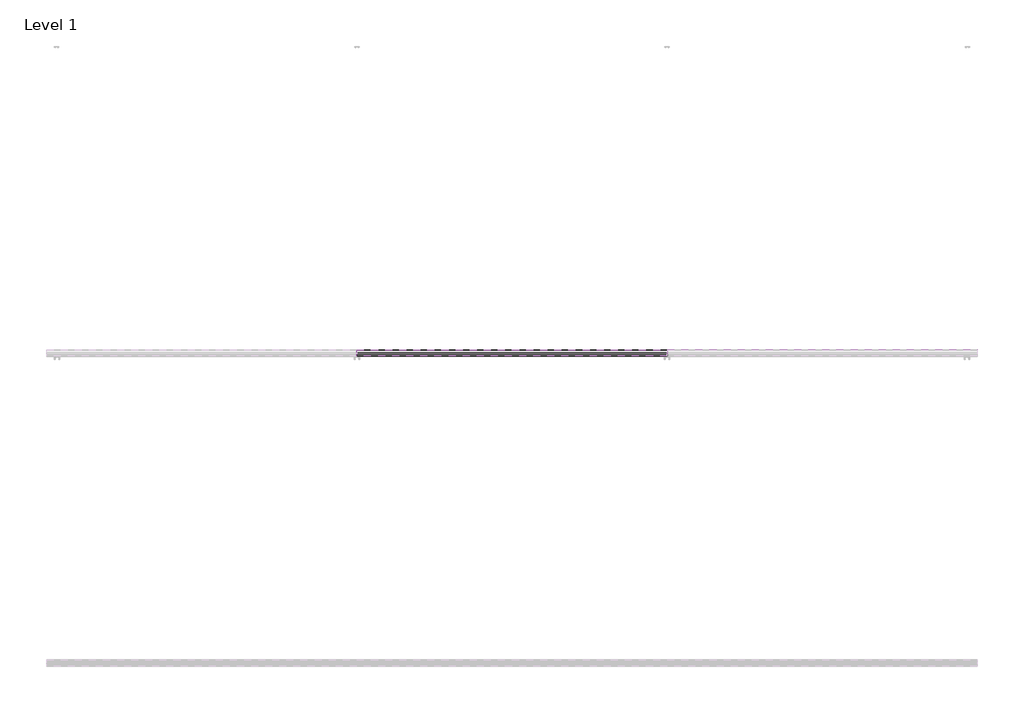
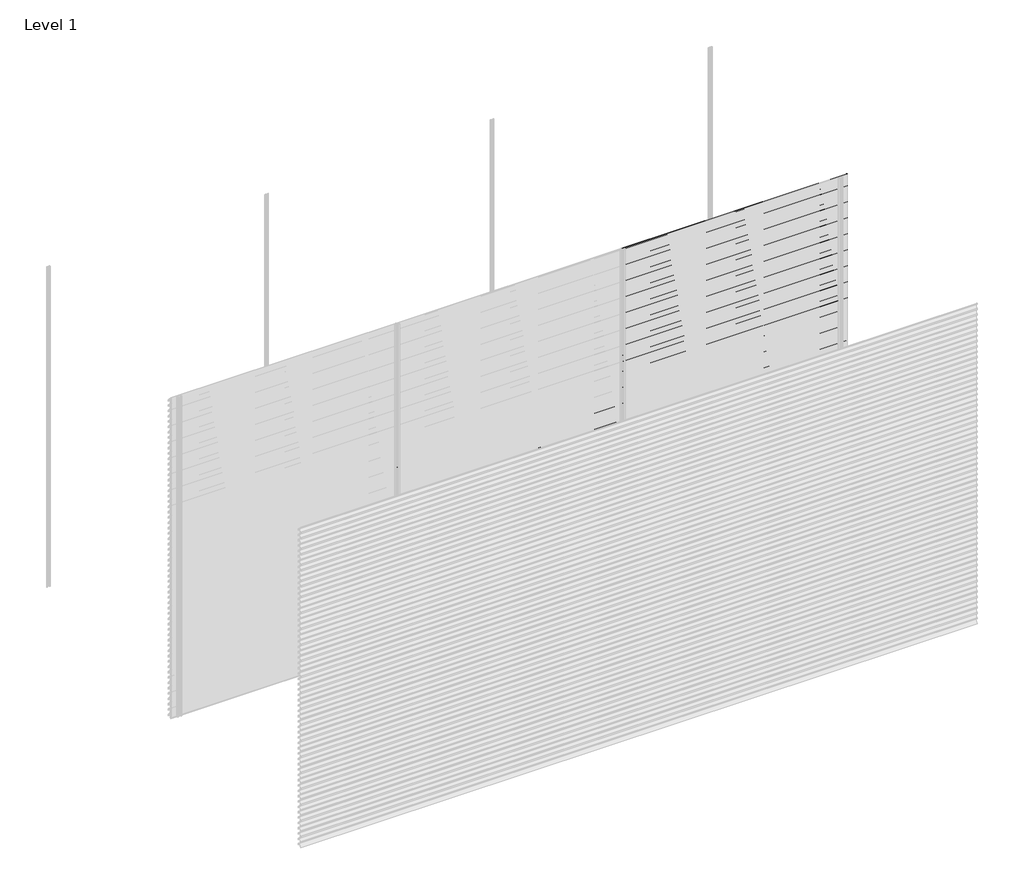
# One storey, part 34 of 38: 66 proxies.
"""IFC4 building model written with IfcOpenShell, lengths in millimetres."""

from ifc_helpers import new_model, si_unit, frame, origin, place, context, project, spatial, polyline, outline, extrude, element, save

model = new_model("IFC4")

# Units and contexts
model_context = context("Model", 3, world=origin())
ifc_project = project(units=[si_unit("LENGTHUNIT", "METRE", prefix="MILLI")], contexts=[model_context])

# Site, building, storey
site = spatial("IfcSite", under=ifc_project)
building = spatial("IfcBuilding", under=site)
storey = spatial("IfcBuildingStorey", under=building, Name="Level 1", Elevation=0.0)

# Proxies
placement = place(None, origin())
element("IfcBuildingElementProxy", 1, Name="Wall Sweeps", at=placement, inside=storey, context=model_context, shape_type="SweptSolid", body=[
    extrude(outline(polyline([(-5996.75, 1650.0), (-5996.75, 1639.19656), (-5974.6057113, 1626.4115489), (-5957.0, 1609.0472005), (-5957.0, 1594.0472005), (-5958.3, 1595.0268207), (-5958.3, 1608.5034593), (-5969.4914725, 1619.541504), (-5994.2797376, 1590.0), (-5995.9767671, 1590.0), (-5970.4200307, 1620.4573323), (-5975.3999793, 1625.3690091), (-5998.0, 1638.4171371), (-5998.0, 1650.0), (-5996.75, 1650.0)])), frame((2000.0, 0.0, 0.0), z_axis=(1.0, 0.0, 0.0), x_axis=(0.0, 1.0, 0.0)), (0.0, 0.0, 1.0), 2000.0),
])
element("IfcBuildingElementProxy", 2, Name="Wall Sweeps", at=placement, inside=storey, context=model_context, shape_type="SweptSolid", body=[
    extrude(outline(polyline([(-5996.75, 1600.0), (-5996.75, 1589.19656), (-5974.6057113, 1576.4115489), (-5957.0, 1559.0472005), (-5957.0, 1544.0472005), (-5958.3, 1545.0268207), (-5958.3, 1558.5034593), (-5969.4914725, 1569.541504), (-5994.2797376, 1540.0), (-5995.9767671, 1540.0), (-5970.4200307, 1570.4573323), (-5975.3999793, 1575.3690091), (-5998.0, 1588.4171371), (-5998.0, 1600.0), (-5996.75, 1600.0)])), frame((2000.0, 0.0, 0.0), z_axis=(1.0, 0.0, 0.0), x_axis=(0.0, 1.0, 0.0)), (0.0, 0.0, 1.0), 2000.0),
])
element("IfcBuildingElementProxy", 3, Name="Wall Sweeps", at=placement, inside=storey, context=model_context, shape_type="SweptSolid", body=[
    extrude(outline(polyline([(-5996.75, 1550.0), (-5996.75, 1539.19656), (-5974.6057113, 1526.4115489), (-5957.0, 1509.0472005), (-5957.0, 1494.0472005), (-5958.3, 1495.0268207), (-5958.3, 1508.5034593), (-5969.4914725, 1519.541504), (-5994.2797376, 1490.0), (-5995.9767671, 1490.0), (-5970.4200307, 1520.4573323), (-5975.3999793, 1525.3690091), (-5998.0, 1538.4171371), (-5998.0, 1550.0), (-5996.75, 1550.0)])), frame((2000.0, 0.0, 0.0), z_axis=(1.0, 0.0, 0.0), x_axis=(0.0, 1.0, 0.0)), (0.0, 0.0, 1.0), 2000.0),
])
element("IfcBuildingElementProxy", 4, Name="Wall Sweeps", at=placement, inside=storey, context=model_context, shape_type="SweptSolid", body=[
    extrude(outline(polyline([(-5996.75, 1500.0), (-5996.75, 1489.19656), (-5974.6057113, 1476.4115489), (-5957.0, 1459.0472005), (-5957.0, 1444.0472005), (-5958.3, 1445.0268207), (-5958.3, 1458.5034593), (-5969.4914725, 1469.541504), (-5994.2797376, 1440.0), (-5995.9767671, 1440.0), (-5970.4200307, 1470.4573323), (-5975.3999793, 1475.3690091), (-5998.0, 1488.4171371), (-5998.0, 1500.0), (-5996.75, 1500.0)])), frame((2000.0, 0.0, 0.0), z_axis=(1.0, 0.0, 0.0), x_axis=(0.0, 1.0, 0.0)), (0.0, 0.0, 1.0), 2000.0),
])
element("IfcBuildingElementProxy", 5, Name="Wall Sweeps", at=placement, inside=storey, context=model_context, shape_type="SweptSolid", body=[
    extrude(outline(polyline([(-5996.75, 1450.0), (-5996.75, 1439.19656), (-5974.6057113, 1426.4115489), (-5957.0, 1409.0472005), (-5957.0, 1394.0472005), (-5958.3, 1395.0268207), (-5958.3, 1408.5034593), (-5969.4914725, 1419.541504), (-5994.2797376, 1390.0), (-5995.9767671, 1390.0), (-5970.4200307, 1420.4573323), (-5975.3999793, 1425.3690091), (-5998.0, 1438.4171371), (-5998.0, 1450.0), (-5996.75, 1450.0)])), frame((2000.0, 0.0, 0.0), z_axis=(1.0, 0.0, 0.0), x_axis=(0.0, 1.0, 0.0)), (0.0, 0.0, 1.0), 2000.0),
])
element("IfcBuildingElementProxy", 6, Name="Wall Sweeps", at=placement, inside=storey, context=model_context, shape_type="SweptSolid", body=[
    extrude(outline(polyline([(-5996.75, 1400.0), (-5996.75, 1389.19656), (-5974.6057113, 1376.4115489), (-5957.0, 1359.0472005), (-5957.0, 1344.0472005), (-5958.3, 1345.0268207), (-5958.3, 1358.5034593), (-5969.4914725, 1369.541504), (-5994.2797376, 1340.0), (-5995.9767671, 1340.0), (-5970.4200307, 1370.4573323), (-5975.3999793, 1375.3690091), (-5998.0, 1388.4171371), (-5998.0, 1400.0), (-5996.75, 1400.0)])), frame((2000.0, 0.0, 0.0), z_axis=(1.0, 0.0, 0.0), x_axis=(0.0, 1.0, 0.0)), (0.0, 0.0, 1.0), 2000.0),
])
element("IfcBuildingElementProxy", 7, Name="Wall Sweeps", at=placement, inside=storey, context=model_context, shape_type="SweptSolid", body=[
    extrude(outline(polyline([(-5996.75, 1350.0), (-5996.75, 1339.19656), (-5974.6057113, 1326.4115489), (-5957.0, 1309.0472005), (-5957.0, 1294.0472005), (-5958.3, 1295.0268207), (-5958.3, 1308.5034593), (-5969.4914725, 1319.541504), (-5994.2797376, 1290.0), (-5995.9767671, 1290.0), (-5970.4200307, 1320.4573323), (-5975.3999793, 1325.3690091), (-5998.0, 1338.4171371), (-5998.0, 1350.0), (-5996.75, 1350.0)])), frame((2000.0, 0.0, 0.0), z_axis=(1.0, 0.0, 0.0), x_axis=(0.0, 1.0, 0.0)), (0.0, 0.0, 1.0), 2000.0),
])
element("IfcBuildingElementProxy", 8, Name="Wall Sweeps", at=placement, inside=storey, context=model_context, shape_type="SweptSolid", body=[
    extrude(outline(polyline([(-5996.75, 1300.0), (-5996.75, 1289.19656), (-5974.6057113, 1276.4115489), (-5957.0, 1259.0472005), (-5957.0, 1244.0472005), (-5958.3, 1245.0268207), (-5958.3, 1258.5034593), (-5969.4914725, 1269.541504), (-5994.2797376, 1240.0), (-5995.9767671, 1240.0), (-5970.4200307, 1270.4573323), (-5975.3999793, 1275.3690091), (-5998.0, 1288.4171371), (-5998.0, 1300.0), (-5996.75, 1300.0)])), frame((2000.0, 0.0, 0.0), z_axis=(1.0, 0.0, 0.0), x_axis=(0.0, 1.0, 0.0)), (0.0, 0.0, 1.0), 2000.0),
])
element("IfcBuildingElementProxy", 9, Name="Wall Sweeps", at=placement, inside=storey, context=model_context, shape_type="SweptSolid", body=[
    extrude(outline(polyline([(-5996.75, 1250.0), (-5996.75, 1239.19656), (-5974.6057113, 1226.4115489), (-5957.0, 1209.0472005), (-5957.0, 1194.0472005), (-5958.3, 1195.0268207), (-5958.3, 1208.5034593), (-5969.4914725, 1219.541504), (-5994.2797376, 1190.0), (-5995.9767671, 1190.0), (-5970.4200307, 1220.4573323), (-5975.3999793, 1225.3690091), (-5998.0, 1238.4171371), (-5998.0, 1250.0), (-5996.75, 1250.0)])), frame((2000.0, 0.0, 0.0), z_axis=(1.0, 0.0, 0.0), x_axis=(0.0, 1.0, 0.0)), (0.0, 0.0, 1.0), 2000.0),
])
element("IfcBuildingElementProxy", 10, Name="Wall Sweeps", at=placement, inside=storey, context=model_context, shape_type="SweptSolid", body=[
    extrude(outline(polyline([(-5996.75, 1200.0), (-5996.75, 1189.19656), (-5974.6057113, 1176.4115489), (-5957.0, 1159.0472005), (-5957.0, 1144.0472005), (-5958.3, 1145.0268207), (-5958.3, 1158.5034593), (-5969.4914725, 1169.541504), (-5994.2797376, 1140.0), (-5995.9767671, 1140.0), (-5970.4200307, 1170.4573323), (-5975.3999793, 1175.3690091), (-5998.0, 1188.4171371), (-5998.0, 1200.0), (-5996.75, 1200.0)])), frame((2000.0, 0.0, 0.0), z_axis=(1.0, 0.0, 0.0), x_axis=(0.0, 1.0, 0.0)), (0.0, 0.0, 1.0), 2000.0),
])
element("IfcBuildingElementProxy", 11, Name="Wall Sweeps", at=placement, inside=storey, context=model_context, shape_type="SweptSolid", body=[
    extrude(outline(polyline([(-5996.75, 1150.0), (-5996.75, 1139.19656), (-5974.6057113, 1126.4115489), (-5957.0, 1109.0472005), (-5957.0, 1094.0472005), (-5958.3, 1095.0268207), (-5958.3, 1108.5034593), (-5969.4914725, 1119.541504), (-5994.2797376, 1090.0), (-5995.9767671, 1090.0), (-5970.4200307, 1120.4573323), (-5975.3999793, 1125.3690091), (-5998.0, 1138.4171371), (-5998.0, 1150.0), (-5996.75, 1150.0)])), frame((2000.0, 0.0, 0.0), z_axis=(1.0, 0.0, 0.0), x_axis=(0.0, 1.0, 0.0)), (0.0, 0.0, 1.0), 2000.0),
])
element("IfcBuildingElementProxy", 12, Name="Wall Sweeps", at=placement, inside=storey, context=model_context, shape_type="SweptSolid", body=[
    extrude(outline(polyline([(-5996.75, 1100.0), (-5996.75, 1089.19656), (-5974.6057113, 1076.4115489), (-5957.0, 1059.0472005), (-5957.0, 1044.0472005), (-5958.3, 1045.0268207), (-5958.3, 1058.5034593), (-5969.4914725, 1069.541504), (-5994.2797376, 1040.0), (-5995.9767671, 1040.0), (-5970.4200307, 1070.4573323), (-5975.3999793, 1075.3690091), (-5998.0, 1088.4171371), (-5998.0, 1100.0), (-5996.75, 1100.0)])), frame((2000.0, 0.0, 0.0), z_axis=(1.0, 0.0, 0.0), x_axis=(0.0, 1.0, 0.0)), (0.0, 0.0, 1.0), 2000.0),
])
element("IfcBuildingElementProxy", 13, Name="Wall Sweeps", at=placement, inside=storey, context=model_context, shape_type="SweptSolid", body=[
    extrude(outline(polyline([(-5996.75, 1050.0), (-5996.75, 1039.19656), (-5974.6057113, 1026.4115489), (-5957.0, 1009.0472005), (-5957.0, 994.0472005), (-5958.3, 995.0268207), (-5958.3, 1008.5034593), (-5969.4914725, 1019.541504), (-5994.2797376, 990.0), (-5995.9767671, 990.0), (-5970.4200307, 1020.4573323), (-5975.3999793, 1025.3690091), (-5998.0, 1038.4171371), (-5998.0, 1050.0), (-5996.75, 1050.0)])), frame((2000.0, 0.0, 0.0), z_axis=(1.0, 0.0, 0.0), x_axis=(0.0, 1.0, 0.0)), (0.0, 0.0, 1.0), 2000.0),
])
element("IfcBuildingElementProxy", 14, Name="Wall Sweeps", at=placement, inside=storey, context=model_context, shape_type="SweptSolid", body=[
    extrude(outline(polyline([(-5996.75, 1000.0), (-5996.75, 989.19656), (-5974.6057113, 976.4115489), (-5957.0, 959.0472005), (-5957.0, 944.0472005), (-5958.3, 945.0268207), (-5958.3, 958.5034593), (-5969.4914725, 969.541504), (-5994.2797376, 940.0), (-5995.9767671, 940.0), (-5970.4200307, 970.4573323), (-5975.3999793, 975.3690091), (-5998.0, 988.4171371), (-5998.0, 1000.0), (-5996.75, 1000.0)])), frame((2000.0, 0.0, 0.0), z_axis=(1.0, 0.0, 0.0), x_axis=(0.0, 1.0, 0.0)), (0.0, 0.0, 1.0), 2000.0),
])
element("IfcBuildingElementProxy", 15, Name="Wall Sweeps", at=placement, inside=storey, context=model_context, shape_type="SweptSolid", body=[
    extrude(outline(polyline([(-5996.75, 950.0), (-5996.75, 939.19656), (-5974.6057113, 926.4115489), (-5957.0, 909.0472005), (-5957.0, 894.0472005), (-5958.3, 895.0268207), (-5958.3, 908.5034593), (-5969.4914725, 919.541504), (-5994.2797376, 890.0), (-5995.9767671, 890.0), (-5970.4200307, 920.4573323), (-5975.3999793, 925.3690091), (-5998.0, 938.4171371), (-5998.0, 950.0), (-5996.75, 950.0)])), frame((2000.0, 0.0, 0.0), z_axis=(1.0, 0.0, 0.0), x_axis=(0.0, 1.0, 0.0)), (0.0, 0.0, 1.0), 2000.0),
])
element("IfcBuildingElementProxy", 16, Name="Wall Sweeps", at=placement, inside=storey, context=model_context, shape_type="SweptSolid", body=[
    extrude(outline(polyline([(-5996.75, 900.0), (-5996.75, 889.19656), (-5974.6057113, 876.4115489), (-5957.0, 859.0472005), (-5957.0, 844.0472005), (-5958.3, 845.0268207), (-5958.3, 858.5034593), (-5969.4914725, 869.541504), (-5994.2797376, 840.0), (-5995.9767671, 840.0), (-5970.4200307, 870.4573323), (-5975.3999793, 875.3690091), (-5998.0, 888.4171371), (-5998.0, 900.0), (-5996.75, 900.0)])), frame((2000.0, 0.0, 0.0), z_axis=(1.0, 0.0, 0.0), x_axis=(0.0, 1.0, 0.0)), (0.0, 0.0, 1.0), 2000.0),
])
element("IfcBuildingElementProxy", 17, Name="Wall Sweeps", at=placement, inside=storey, context=model_context, shape_type="SweptSolid", body=[
    extrude(outline(polyline([(-5996.75, 850.0), (-5996.75, 839.19656), (-5974.6057113, 826.4115489), (-5957.0, 809.0472005), (-5957.0, 794.0472005), (-5958.3, 795.0268207), (-5958.3, 808.5034593), (-5969.4914725, 819.541504), (-5994.2797376, 790.0), (-5995.9767671, 790.0), (-5970.4200307, 820.4573323), (-5975.3999793, 825.3690091), (-5998.0, 838.4171371), (-5998.0, 850.0), (-5996.75, 850.0)])), frame((2000.0, 0.0, 0.0), z_axis=(1.0, 0.0, 0.0), x_axis=(0.0, 1.0, 0.0)), (0.0, 0.0, 1.0), 2000.0),
])
element("IfcBuildingElementProxy", 18, Name="Wall Sweeps", at=placement, inside=storey, context=model_context, shape_type="SweptSolid", body=[
    extrude(outline(polyline([(-5996.75, 800.0), (-5996.75, 789.19656), (-5974.6057113, 776.4115489), (-5957.0, 759.0472005), (-5957.0, 744.0472005), (-5958.3, 745.0268207), (-5958.3, 758.5034593), (-5969.4914725, 769.541504), (-5994.2797376, 740.0), (-5995.9767671, 740.0), (-5970.4200307, 770.4573323), (-5975.3999793, 775.3690091), (-5998.0, 788.4171371), (-5998.0, 800.0), (-5996.75, 800.0)])), frame((2000.0, 0.0, 0.0), z_axis=(1.0, 0.0, 0.0), x_axis=(0.0, 1.0, 0.0)), (0.0, 0.0, 1.0), 2000.0),
])
element("IfcBuildingElementProxy", 19, Name="Wall Sweeps", at=placement, inside=storey, context=model_context, shape_type="SweptSolid", body=[
    extrude(outline(polyline([(-5996.75, 750.0), (-5996.75, 739.19656), (-5974.6057113, 726.4115489), (-5957.0, 709.0472005), (-5957.0, 694.0472005), (-5958.3, 695.0268207), (-5958.3, 708.5034593), (-5969.4914725, 719.541504), (-5994.2797376, 690.0), (-5995.9767671, 690.0), (-5970.4200307, 720.4573323), (-5975.3999793, 725.3690091), (-5998.0, 738.4171371), (-5998.0, 750.0), (-5996.75, 750.0)])), frame((2000.0, 0.0, 0.0), z_axis=(1.0, 0.0, 0.0), x_axis=(0.0, 1.0, 0.0)), (0.0, 0.0, 1.0), 2000.0),
])
element("IfcBuildingElementProxy", 20, Name="Wall Sweeps", at=placement, inside=storey, context=model_context, shape_type="SweptSolid", body=[
    extrude(outline(polyline([(-5996.75, 700.0), (-5996.75, 689.19656), (-5974.6057113, 676.4115489), (-5957.0, 659.0472005), (-5957.0, 644.0472005), (-5958.3, 645.0268207), (-5958.3, 658.5034593), (-5969.4914725, 669.541504), (-5994.2797376, 640.0), (-5995.9767671, 640.0), (-5970.4200307, 670.4573323), (-5975.3999793, 675.3690091), (-5998.0, 688.4171371), (-5998.0, 700.0), (-5996.75, 700.0)])), frame((2000.0, 0.0, 0.0), z_axis=(1.0, 0.0, 0.0), x_axis=(0.0, 1.0, 0.0)), (0.0, 0.0, 1.0), 2000.0),
])
element("IfcBuildingElementProxy", 21, Name="Wall Sweeps", at=placement, inside=storey, context=model_context, shape_type="SweptSolid", body=[
    extrude(outline(polyline([(-5996.75, 650.0), (-5996.75, 639.19656), (-5974.6057113, 626.4115489), (-5957.0, 609.0472005), (-5957.0, 594.0472005), (-5958.3, 595.0268207), (-5958.3, 608.5034593), (-5969.4914725, 619.541504), (-5994.2797376, 590.0), (-5995.9767671, 590.0), (-5970.4200307, 620.4573323), (-5975.3999793, 625.3690091), (-5998.0, 638.4171371), (-5998.0, 650.0), (-5996.75, 650.0)])), frame((2000.0, 0.0, 0.0), z_axis=(1.0, 0.0, 0.0), x_axis=(0.0, 1.0, 0.0)), (0.0, 0.0, 1.0), 2000.0),
])
element("IfcBuildingElementProxy", 22, Name="Wall Sweeps", at=placement, inside=storey, context=model_context, shape_type="SweptSolid", body=[
    extrude(outline(polyline([(-5996.75, 600.0), (-5996.75, 589.19656), (-5974.6057113, 576.4115489), (-5957.0, 559.0472005), (-5957.0, 544.0472005), (-5958.3, 545.0268207), (-5958.3, 558.5034593), (-5969.4914725, 569.541504), (-5994.2797376, 540.0), (-5995.9767671, 540.0), (-5970.4200307, 570.4573323), (-5975.3999793, 575.3690091), (-5998.0, 588.4171371), (-5998.0, 600.0), (-5996.75, 600.0)])), frame((2000.0, 0.0, 0.0), z_axis=(1.0, 0.0, 0.0), x_axis=(0.0, 1.0, 0.0)), (0.0, 0.0, 1.0), 2000.0),
])
element("IfcBuildingElementProxy", 23, Name="Wall Sweeps", at=placement, inside=storey, context=model_context, shape_type="SweptSolid", body=[
    extrude(outline(polyline([(-5996.75, 550.0), (-5996.75, 539.19656), (-5974.6057113, 526.4115489), (-5957.0, 509.0472005), (-5957.0, 494.0472005), (-5958.3, 495.0268207), (-5958.3, 508.5034593), (-5969.4914725, 519.541504), (-5994.2797376, 490.0), (-5995.9767671, 490.0), (-5970.4200307, 520.4573323), (-5975.3999793, 525.3690091), (-5998.0, 538.4171371), (-5998.0, 550.0), (-5996.75, 550.0)])), frame((2000.0, 0.0, 0.0), z_axis=(1.0, 0.0, 0.0), x_axis=(0.0, 1.0, 0.0)), (0.0, 0.0, 1.0), 2000.0),
])
element("IfcBuildingElementProxy", 24, Name="Wall Sweeps", at=placement, inside=storey, context=model_context, shape_type="SweptSolid", body=[
    extrude(outline(polyline([(-5996.75, 500.0), (-5996.75, 489.19656), (-5974.6057113, 476.4115489), (-5957.0, 459.0472005), (-5957.0, 444.0472005), (-5958.3, 445.0268207), (-5958.3, 458.5034593), (-5969.4914725, 469.541504), (-5994.2797376, 440.0), (-5995.9767671, 440.0), (-5970.4200307, 470.4573323), (-5975.3999793, 475.3690091), (-5998.0, 488.4171371), (-5998.0, 500.0), (-5996.75, 500.0)])), frame((2000.0, 0.0, 0.0), z_axis=(1.0, 0.0, 0.0), x_axis=(0.0, 1.0, 0.0)), (0.0, 0.0, 1.0), 2000.0),
])
element("IfcBuildingElementProxy", 25, Name="Wall Sweeps", at=placement, inside=storey, context=model_context, shape_type="SweptSolid", body=[
    extrude(outline(polyline([(-5996.75, 450.0), (-5996.75, 439.19656), (-5974.6057113, 426.4115489), (-5957.0, 409.0472005), (-5957.0, 394.0472005), (-5958.3, 395.0268207), (-5958.3, 408.5034593), (-5969.4914725, 419.541504), (-5994.2797376, 390.0), (-5995.9767671, 390.0), (-5970.4200307, 420.4573323), (-5975.3999793, 425.3690091), (-5998.0, 438.4171371), (-5998.0, 450.0), (-5996.75, 450.0)])), frame((2000.0, 0.0, 0.0), z_axis=(1.0, 0.0, 0.0), x_axis=(0.0, 1.0, 0.0)), (0.0, 0.0, 1.0), 2000.0),
])
element("IfcBuildingElementProxy", 26, Name="Wall Sweeps", at=placement, inside=storey, context=model_context, shape_type="SweptSolid", body=[
    extrude(outline(polyline([(-5996.75, 400.0), (-5996.75, 389.19656), (-5974.6057113, 376.4115489), (-5957.0, 359.0472005), (-5957.0, 344.0472005), (-5958.3, 345.0268207), (-5958.3, 358.5034593), (-5969.4914725, 369.541504), (-5994.2797376, 340.0), (-5995.9767671, 340.0), (-5970.4200307, 370.4573323), (-5975.3999793, 375.3690091), (-5998.0, 388.4171371), (-5998.0, 400.0), (-5996.75, 400.0)])), frame((2000.0, 0.0, 0.0), z_axis=(1.0, 0.0, 0.0), x_axis=(0.0, 1.0, 0.0)), (0.0, 0.0, 1.0), 2000.0),
])
element("IfcBuildingElementProxy", 27, Name="Wall Sweeps", at=placement, inside=storey, context=model_context, shape_type="SweptSolid", body=[
    extrude(outline(polyline([(-5996.75, 350.0), (-5996.75, 339.19656), (-5974.6057113, 326.4115489), (-5957.0, 309.0472005), (-5957.0, 294.0472005), (-5958.3, 295.0268207), (-5958.3, 308.5034593), (-5969.4914725, 319.541504), (-5994.2797376, 290.0), (-5995.9767671, 290.0), (-5970.4200307, 320.4573323), (-5975.3999793, 325.3690091), (-5998.0, 338.4171371), (-5998.0, 350.0), (-5996.75, 350.0)])), frame((2000.0, 0.0, 0.0), z_axis=(1.0, 0.0, 0.0), x_axis=(0.0, 1.0, 0.0)), (0.0, 0.0, 1.0), 2000.0),
])
element("IfcBuildingElementProxy", 28, Name="Wall Sweeps", at=placement, inside=storey, context=model_context, shape_type="SweptSolid", body=[
    extrude(outline(polyline([(-5996.75, 300.0), (-5996.75, 289.19656), (-5974.6057113, 276.4115489), (-5957.0, 259.0472005), (-5957.0, 244.0472005), (-5958.3, 245.0268207), (-5958.3, 258.5034593), (-5969.4914725, 269.541504), (-5994.2797376, 240.0), (-5995.9767671, 240.0), (-5970.4200307, 270.4573323), (-5975.3999793, 275.3690091), (-5998.0, 288.4171371), (-5998.0, 300.0), (-5996.75, 300.0)])), frame((2000.0, 0.0, 0.0), z_axis=(1.0, 0.0, 0.0), x_axis=(0.0, 1.0, 0.0)), (0.0, 0.0, 1.0), 2000.0),
])
element("IfcBuildingElementProxy", 29, Name="Wall Sweeps", at=placement, inside=storey, context=model_context, shape_type="SweptSolid", body=[
    extrude(outline(polyline([(-5996.75, 250.0), (-5996.75, 239.19656), (-5974.6057113, 226.4115489), (-5957.0, 209.0472005), (-5957.0, 194.0472005), (-5958.3, 195.0268207), (-5958.3, 208.5034593), (-5969.4914725, 219.541504), (-5994.2797376, 190.0), (-5995.9767671, 190.0), (-5970.4200307, 220.4573323), (-5975.3999793, 225.3690091), (-5998.0, 238.4171371), (-5998.0, 250.0), (-5996.75, 250.0)])), frame((2000.0, 0.0, 0.0), z_axis=(1.0, 0.0, 0.0), x_axis=(0.0, 1.0, 0.0)), (0.0, 0.0, 1.0), 2000.0),
])
element("IfcBuildingElementProxy", 30, Name="Wall Sweeps", at=placement, inside=storey, context=model_context, shape_type="SweptSolid", body=[
    extrude(outline(polyline([(-5996.75, 200.0), (-5996.75, 189.19656), (-5974.6057113, 176.4115489), (-5957.0, 159.0472005), (-5957.0, 144.0472005), (-5958.3, 145.0268207), (-5958.3, 158.5034593), (-5969.4914725, 169.541504), (-5994.2797376, 140.0), (-5995.9767671, 140.0), (-5970.4200307, 170.4573323), (-5975.3999793, 175.3690091), (-5998.0, 188.4171371), (-5998.0, 200.0), (-5996.75, 200.0)])), frame((2000.0, 0.0, 0.0), z_axis=(1.0, 0.0, 0.0), x_axis=(0.0, 1.0, 0.0)), (0.0, 0.0, 1.0), 2000.0),
])
element("IfcBuildingElementProxy", 31, Name="Wall Sweeps", at=placement, inside=storey, context=model_context, shape_type="SweptSolid", body=[
    extrude(outline(polyline([(-5996.75, 150.0), (-5996.75, 139.19656), (-5974.6057113, 126.4115489), (-5957.0, 109.0472005), (-5957.0, 94.0472005), (-5958.3, 95.0268207), (-5958.3, 108.5034593), (-5969.4914725, 119.541504), (-5994.2797376, 90.0), (-5995.9767671, 90.0), (-5970.4200307, 120.4573323), (-5975.3999793, 125.3690091), (-5998.0, 138.4171371), (-5998.0, 150.0), (-5996.75, 150.0)])), frame((2000.0, 0.0, 0.0), z_axis=(1.0, 0.0, 0.0), x_axis=(0.0, 1.0, 0.0)), (0.0, 0.0, 1.0), 2000.0),
])
element("IfcBuildingElementProxy", 32, Name="Wall Sweeps", at=placement, inside=storey, context=model_context, shape_type="SweptSolid", body=[
    extrude(outline(polyline([(-5996.75, 100.0), (-5996.75, 89.19656), (-5974.6057113, 76.4115489), (-5957.0, 59.0472005), (-5957.0, 44.0472005), (-5958.3, 45.0268207), (-5958.3, 58.5034593), (-5969.4914725, 69.541504), (-5994.2797376, 40.0), (-5995.9767671, 40.0), (-5970.4200307, 70.4573323), (-5975.3999793, 75.3690091), (-5998.0, 88.4171371), (-5998.0, 100.0), (-5996.75, 100.0)])), frame((2000.0, 0.0, 0.0), z_axis=(1.0, 0.0, 0.0), x_axis=(0.0, 1.0, 0.0)), (0.0, 0.0, 1.0), 2000.0),
])
element("IfcBuildingElementProxy", 33, Name="Wall Sweeps", at=placement, inside=storey, context=model_context, shape_type="SweptSolid", body=[
    extrude(outline(polyline([(-5996.75, 50.0), (-5996.75, 39.19656), (-5974.6057113, 26.4115489), (-5957.0, 9.0472005), (-5957.0, -5.9527995), (-5958.3, -4.9731793), (-5958.3, 8.5034593), (-5969.4914725, 19.541504), (-5994.2797376, -10.0), (-5995.9767671, -10.0), (-5970.4200307, 20.4573323), (-5975.3999793, 25.3690091), (-5998.0, 38.4171371), (-5998.0, 50.0), (-5996.75, 50.0)])), frame((2000.0, 0.0, 0.0), z_axis=(1.0, 0.0, 0.0), x_axis=(0.0, 1.0, 0.0)), (0.0, 0.0, 1.0), 2000.0),
])
element("IfcBuildingElementProxy", 34, Name="Wall Sweeps", at=placement, inside=storey, context=model_context, shape_type="SweptSolid", body=[
    extrude(outline(polyline([(-5996.75, 3000.0), (-5996.75, 2989.19656), (-5974.6057113, 2976.4115489), (-5957.0, 2959.0472005), (-5957.0, 2944.0472005), (-5958.3, 2945.0268207), (-5958.3, 2958.5034593), (-5969.4914725, 2969.541504), (-5994.2797376, 2940.0), (-5995.9767671, 2940.0), (-5970.4200307, 2970.4573323), (-5975.3999793, 2975.3690091), (-5998.0, 2988.4171371), (-5998.0, 3000.0), (-5996.75, 3000.0)])), frame((4000.0, 0.0, 0.0), z_axis=(1.0, 0.0, 0.0), x_axis=(0.0, 1.0, 0.0)), (0.0, 0.0, 1.0), 2000.0),
])
element("IfcBuildingElementProxy", 35, Name="Wall Sweeps", at=placement, inside=storey, context=model_context, shape_type="SweptSolid", body=[
    extrude(outline(polyline([(-5996.75, 2950.0), (-5996.75, 2939.19656), (-5974.6057113, 2926.4115489), (-5957.0, 2909.0472005), (-5957.0, 2894.0472005), (-5958.3, 2895.0268207), (-5958.3, 2908.5034593), (-5969.4914725, 2919.541504), (-5994.2797376, 2890.0), (-5995.9767671, 2890.0), (-5970.4200307, 2920.4573323), (-5975.3999793, 2925.3690091), (-5998.0, 2938.4171371), (-5998.0, 2950.0), (-5996.75, 2950.0)])), frame((4000.0, 0.0, 0.0), z_axis=(1.0, 0.0, 0.0), x_axis=(0.0, 1.0, 0.0)), (0.0, 0.0, 1.0), 2000.0),
])
element("IfcBuildingElementProxy", 36, Name="Wall Sweeps", at=placement, inside=storey, context=model_context, shape_type="SweptSolid", body=[
    extrude(outline(polyline([(-5996.75, 2900.0), (-5996.75, 2889.19656), (-5974.6057113, 2876.4115489), (-5957.0, 2859.0472005), (-5957.0, 2844.0472005), (-5958.3, 2845.0268207), (-5958.3, 2858.5034593), (-5969.4914725, 2869.541504), (-5994.2797376, 2840.0), (-5995.9767671, 2840.0), (-5970.4200307, 2870.4573323), (-5975.3999793, 2875.3690091), (-5998.0, 2888.4171371), (-5998.0, 2900.0), (-5996.75, 2900.0)])), frame((4000.0, 0.0, 0.0), z_axis=(1.0, 0.0, 0.0), x_axis=(0.0, 1.0, 0.0)), (0.0, 0.0, 1.0), 2000.0),
])
element("IfcBuildingElementProxy", 37, Name="Wall Sweeps", at=placement, inside=storey, context=model_context, shape_type="SweptSolid", body=[
    extrude(outline(polyline([(-5996.75, 2850.0), (-5996.75, 2839.19656), (-5974.6057113, 2826.4115489), (-5957.0, 2809.0472005), (-5957.0, 2794.0472005), (-5958.3, 2795.0268207), (-5958.3, 2808.5034593), (-5969.4914725, 2819.541504), (-5994.2797376, 2790.0), (-5995.9767671, 2790.0), (-5970.4200307, 2820.4573323), (-5975.3999793, 2825.3690091), (-5998.0, 2838.4171371), (-5998.0, 2850.0), (-5996.75, 2850.0)])), frame((4000.0, 0.0, 0.0), z_axis=(1.0, 0.0, 0.0), x_axis=(0.0, 1.0, 0.0)), (0.0, 0.0, 1.0), 2000.0),
])
element("IfcBuildingElementProxy", 38, Name="Wall Sweeps", at=placement, inside=storey, context=model_context, shape_type="SweptSolid", body=[
    extrude(outline(polyline([(-5996.75, 2800.0), (-5996.75, 2789.19656), (-5974.6057113, 2776.4115489), (-5957.0, 2759.0472005), (-5957.0, 2744.0472005), (-5958.3, 2745.0268207), (-5958.3, 2758.5034593), (-5969.4914725, 2769.541504), (-5994.2797376, 2740.0), (-5995.9767671, 2740.0), (-5970.4200307, 2770.4573323), (-5975.3999793, 2775.3690091), (-5998.0, 2788.4171371), (-5998.0, 2800.0), (-5996.75, 2800.0)])), frame((4000.0, 0.0, 0.0), z_axis=(1.0, 0.0, 0.0), x_axis=(0.0, 1.0, 0.0)), (0.0, 0.0, 1.0), 2000.0),
])
element("IfcBuildingElementProxy", 39, Name="Wall Sweeps", at=placement, inside=storey, context=model_context, shape_type="SweptSolid", body=[
    extrude(outline(polyline([(-5996.75, 2750.0), (-5996.75, 2739.19656), (-5974.6057113, 2726.4115489), (-5957.0, 2709.0472005), (-5957.0, 2694.0472005), (-5958.3, 2695.0268207), (-5958.3, 2708.5034593), (-5969.4914725, 2719.541504), (-5994.2797376, 2690.0), (-5995.9767671, 2690.0), (-5970.4200307, 2720.4573323), (-5975.3999793, 2725.3690091), (-5998.0, 2738.4171371), (-5998.0, 2750.0), (-5996.75, 2750.0)])), frame((4000.0, 0.0, 0.0), z_axis=(1.0, 0.0, 0.0), x_axis=(0.0, 1.0, 0.0)), (0.0, 0.0, 1.0), 2000.0),
])
element("IfcBuildingElementProxy", 40, Name="Wall Sweeps", at=placement, inside=storey, context=model_context, shape_type="SweptSolid", body=[
    extrude(outline(polyline([(-5996.75, 2700.0), (-5996.75, 2689.19656), (-5974.6057113, 2676.4115489), (-5957.0, 2659.0472005), (-5957.0, 2644.0472005), (-5958.3, 2645.0268207), (-5958.3, 2658.5034593), (-5969.4914725, 2669.541504), (-5994.2797376, 2640.0), (-5995.9767671, 2640.0), (-5970.4200307, 2670.4573323), (-5975.3999793, 2675.3690091), (-5998.0, 2688.4171371), (-5998.0, 2700.0), (-5996.75, 2700.0)])), frame((4000.0, 0.0, 0.0), z_axis=(1.0, 0.0, 0.0), x_axis=(0.0, 1.0, 0.0)), (0.0, 0.0, 1.0), 2000.0),
])
element("IfcBuildingElementProxy", 41, Name="Wall Sweeps", at=placement, inside=storey, context=model_context, shape_type="SweptSolid", body=[
    extrude(outline(polyline([(-5996.75, 2650.0), (-5996.75, 2639.19656), (-5974.6057113, 2626.4115489), (-5957.0, 2609.0472005), (-5957.0, 2594.0472005), (-5958.3, 2595.0268207), (-5958.3, 2608.5034593), (-5969.4914725, 2619.541504), (-5994.2797376, 2590.0), (-5995.9767671, 2590.0), (-5970.4200307, 2620.4573323), (-5975.3999793, 2625.3690091), (-5998.0, 2638.4171371), (-5998.0, 2650.0), (-5996.75, 2650.0)])), frame((4000.0, 0.0, 0.0), z_axis=(1.0, 0.0, 0.0), x_axis=(0.0, 1.0, 0.0)), (0.0, 0.0, 1.0), 2000.0),
])
element("IfcBuildingElementProxy", 42, Name="Wall Sweeps", at=placement, inside=storey, context=model_context, shape_type="SweptSolid", body=[
    extrude(outline(polyline([(-5996.75, 2600.0), (-5996.75, 2589.19656), (-5974.6057113, 2576.4115489), (-5957.0, 2559.0472005), (-5957.0, 2544.0472005), (-5958.3, 2545.0268207), (-5958.3, 2558.5034593), (-5969.4914725, 2569.541504), (-5994.2797376, 2540.0), (-5995.9767671, 2540.0), (-5970.4200307, 2570.4573323), (-5975.3999793, 2575.3690091), (-5998.0, 2588.4171371), (-5998.0, 2600.0), (-5996.75, 2600.0)])), frame((4000.0, 0.0, 0.0), z_axis=(1.0, 0.0, 0.0), x_axis=(0.0, 1.0, 0.0)), (0.0, 0.0, 1.0), 2000.0),
])
element("IfcBuildingElementProxy", 43, Name="Wall Sweeps", at=placement, inside=storey, context=model_context, shape_type="SweptSolid", body=[
    extrude(outline(polyline([(-5996.75, 2550.0), (-5996.75, 2539.19656), (-5974.6057113, 2526.4115489), (-5957.0, 2509.0472005), (-5957.0, 2494.0472005), (-5958.3, 2495.0268207), (-5958.3, 2508.5034593), (-5969.4914725, 2519.541504), (-5994.2797376, 2490.0), (-5995.9767671, 2490.0), (-5970.4200307, 2520.4573323), (-5975.3999793, 2525.3690091), (-5998.0, 2538.4171371), (-5998.0, 2550.0), (-5996.75, 2550.0)])), frame((4000.0, 0.0, 0.0), z_axis=(1.0, 0.0, 0.0), x_axis=(0.0, 1.0, 0.0)), (0.0, 0.0, 1.0), 2000.0),
])
element("IfcBuildingElementProxy", 44, Name="Wall Sweeps", at=placement, inside=storey, context=model_context, shape_type="SweptSolid", body=[
    extrude(outline(polyline([(-5996.75, 2500.0), (-5996.75, 2489.19656), (-5974.6057113, 2476.4115489), (-5957.0, 2459.0472005), (-5957.0, 2444.0472005), (-5958.3, 2445.0268207), (-5958.3, 2458.5034593), (-5969.4914725, 2469.541504), (-5994.2797376, 2440.0), (-5995.9767671, 2440.0), (-5970.4200307, 2470.4573323), (-5975.3999793, 2475.3690091), (-5998.0, 2488.4171371), (-5998.0, 2500.0), (-5996.75, 2500.0)])), frame((4000.0, 0.0, 0.0), z_axis=(1.0, 0.0, 0.0), x_axis=(0.0, 1.0, 0.0)), (0.0, 0.0, 1.0), 2000.0),
])
element("IfcBuildingElementProxy", 45, Name="Wall Sweeps", at=placement, inside=storey, context=model_context, shape_type="SweptSolid", body=[
    extrude(outline(polyline([(-5996.75, 2450.0), (-5996.75, 2439.19656), (-5974.6057113, 2426.4115489), (-5957.0, 2409.0472005), (-5957.0, 2394.0472005), (-5958.3, 2395.0268207), (-5958.3, 2408.5034593), (-5969.4914725, 2419.541504), (-5994.2797376, 2390.0), (-5995.9767671, 2390.0), (-5970.4200307, 2420.4573323), (-5975.3999793, 2425.3690091), (-5998.0, 2438.4171371), (-5998.0, 2450.0), (-5996.75, 2450.0)])), frame((4000.0, 0.0, 0.0), z_axis=(1.0, 0.0, 0.0), x_axis=(0.0, 1.0, 0.0)), (0.0, 0.0, 1.0), 2000.0),
])
element("IfcBuildingElementProxy", 46, Name="Wall Sweeps", at=placement, inside=storey, context=model_context, shape_type="SweptSolid", body=[
    extrude(outline(polyline([(-5996.75, 2400.0), (-5996.75, 2389.19656), (-5974.6057113, 2376.4115489), (-5957.0, 2359.0472005), (-5957.0, 2344.0472005), (-5958.3, 2345.0268207), (-5958.3, 2358.5034593), (-5969.4914725, 2369.541504), (-5994.2797376, 2340.0), (-5995.9767671, 2340.0), (-5970.4200307, 2370.4573323), (-5975.3999793, 2375.3690091), (-5998.0, 2388.4171371), (-5998.0, 2400.0), (-5996.75, 2400.0)])), frame((4000.0, 0.0, 0.0), z_axis=(1.0, 0.0, 0.0), x_axis=(0.0, 1.0, 0.0)), (0.0, 0.0, 1.0), 2000.0),
])
element("IfcBuildingElementProxy", 47, Name="Wall Sweeps", at=placement, inside=storey, context=model_context, shape_type="SweptSolid", body=[
    extrude(outline(polyline([(-5996.75, 2350.0), (-5996.75, 2339.19656), (-5974.6057113, 2326.4115489), (-5957.0, 2309.0472005), (-5957.0, 2294.0472005), (-5958.3, 2295.0268207), (-5958.3, 2308.5034593), (-5969.4914725, 2319.541504), (-5994.2797376, 2290.0), (-5995.9767671, 2290.0), (-5970.4200307, 2320.4573323), (-5975.3999793, 2325.3690091), (-5998.0, 2338.4171371), (-5998.0, 2350.0), (-5996.75, 2350.0)])), frame((4000.0, 0.0, 0.0), z_axis=(1.0, 0.0, 0.0), x_axis=(0.0, 1.0, 0.0)), (0.0, 0.0, 1.0), 2000.0),
])
element("IfcBuildingElementProxy", 48, Name="Wall Sweeps", at=placement, inside=storey, context=model_context, shape_type="SweptSolid", body=[
    extrude(outline(polyline([(-5996.75, 2300.0), (-5996.75, 2289.19656), (-5974.6057113, 2276.4115489), (-5957.0, 2259.0472005), (-5957.0, 2244.0472005), (-5958.3, 2245.0268207), (-5958.3, 2258.5034593), (-5969.4914725, 2269.541504), (-5994.2797376, 2240.0), (-5995.9767671, 2240.0), (-5970.4200307, 2270.4573323), (-5975.3999793, 2275.3690091), (-5998.0, 2288.4171371), (-5998.0, 2300.0), (-5996.75, 2300.0)])), frame((4000.0, 0.0, 0.0), z_axis=(1.0, 0.0, 0.0), x_axis=(0.0, 1.0, 0.0)), (0.0, 0.0, 1.0), 2000.0),
])
element("IfcBuildingElementProxy", 49, Name="Wall Sweeps", at=placement, inside=storey, context=model_context, shape_type="SweptSolid", body=[
    extrude(outline(polyline([(-5996.75, 2250.0), (-5996.75, 2239.19656), (-5974.6057113, 2226.4115489), (-5957.0, 2209.0472005), (-5957.0, 2194.0472005), (-5958.3, 2195.0268207), (-5958.3, 2208.5034593), (-5969.4914725, 2219.541504), (-5994.2797376, 2190.0), (-5995.9767671, 2190.0), (-5970.4200307, 2220.4573323), (-5975.3999793, 2225.3690091), (-5998.0, 2238.4171371), (-5998.0, 2250.0), (-5996.75, 2250.0)])), frame((4000.0, 0.0, 0.0), z_axis=(1.0, 0.0, 0.0), x_axis=(0.0, 1.0, 0.0)), (0.0, 0.0, 1.0), 2000.0),
])
element("IfcBuildingElementProxy", 50, Name="Wall Sweeps", at=placement, inside=storey, context=model_context, shape_type="SweptSolid", body=[
    extrude(outline(polyline([(-5996.75, 2200.0), (-5996.75, 2189.19656), (-5974.6057113, 2176.4115489), (-5957.0, 2159.0472005), (-5957.0, 2144.0472005), (-5958.3, 2145.0268207), (-5958.3, 2158.5034593), (-5969.4914725, 2169.541504), (-5994.2797376, 2140.0), (-5995.9767671, 2140.0), (-5970.4200307, 2170.4573323), (-5975.3999793, 2175.3690091), (-5998.0, 2188.4171371), (-5998.0, 2200.0), (-5996.75, 2200.0)])), frame((4000.0, 0.0, 0.0), z_axis=(1.0, 0.0, 0.0), x_axis=(0.0, 1.0, 0.0)), (0.0, 0.0, 1.0), 2000.0),
])
element("IfcBuildingElementProxy", 51, Name="Wall Sweeps", at=placement, inside=storey, context=model_context, shape_type="SweptSolid", body=[
    extrude(outline(polyline([(-5996.75, 2150.0), (-5996.75, 2139.19656), (-5974.6057113, 2126.4115489), (-5957.0, 2109.0472005), (-5957.0, 2094.0472005), (-5958.3, 2095.0268207), (-5958.3, 2108.5034593), (-5969.4914725, 2119.541504), (-5994.2797376, 2090.0), (-5995.9767671, 2090.0), (-5970.4200307, 2120.4573323), (-5975.3999793, 2125.3690091), (-5998.0, 2138.4171371), (-5998.0, 2150.0), (-5996.75, 2150.0)])), frame((4000.0, 0.0, 0.0), z_axis=(1.0, 0.0, 0.0), x_axis=(0.0, 1.0, 0.0)), (0.0, 0.0, 1.0), 2000.0),
])
element("IfcBuildingElementProxy", 52, Name="Wall Sweeps", at=placement, inside=storey, context=model_context, shape_type="SweptSolid", body=[
    extrude(outline(polyline([(-5996.75, 2100.0), (-5996.75, 2089.19656), (-5974.6057113, 2076.4115489), (-5957.0, 2059.0472005), (-5957.0, 2044.0472005), (-5958.3, 2045.0268207), (-5958.3, 2058.5034593), (-5969.4914725, 2069.541504), (-5994.2797376, 2040.0), (-5995.9767671, 2040.0), (-5970.4200307, 2070.4573323), (-5975.3999793, 2075.3690091), (-5998.0, 2088.4171371), (-5998.0, 2100.0), (-5996.75, 2100.0)])), frame((4000.0, 0.0, 0.0), z_axis=(1.0, 0.0, 0.0), x_axis=(0.0, 1.0, 0.0)), (0.0, 0.0, 1.0), 2000.0),
])
element("IfcBuildingElementProxy", 53, Name="Wall Sweeps", at=placement, inside=storey, context=model_context, shape_type="SweptSolid", body=[
    extrude(outline(polyline([(-5996.75, 2050.0), (-5996.75, 2039.19656), (-5974.6057113, 2026.4115489), (-5957.0, 2009.0472005), (-5957.0, 1994.0472005), (-5958.3, 1995.0268207), (-5958.3, 2008.5034593), (-5969.4914725, 2019.541504), (-5994.2797376, 1990.0), (-5995.9767671, 1990.0), (-5970.4200307, 2020.4573323), (-5975.3999793, 2025.3690091), (-5998.0, 2038.4171371), (-5998.0, 2050.0), (-5996.75, 2050.0)])), frame((4000.0, 0.0, 0.0), z_axis=(1.0, 0.0, 0.0), x_axis=(0.0, 1.0, 0.0)), (0.0, 0.0, 1.0), 2000.0),
])
element("IfcBuildingElementProxy", 54, Name="Wall Sweeps", at=placement, inside=storey, context=model_context, shape_type="SweptSolid", body=[
    extrude(outline(polyline([(-5996.75, 2000.0), (-5996.75, 1989.19656), (-5974.6057113, 1976.4115489), (-5957.0, 1959.0472005), (-5957.0, 1944.0472005), (-5958.3, 1945.0268207), (-5958.3, 1958.5034593), (-5969.4914725, 1969.541504), (-5994.2797376, 1940.0), (-5995.9767671, 1940.0), (-5970.4200307, 1970.4573323), (-5975.3999793, 1975.3690091), (-5998.0, 1988.4171371), (-5998.0, 2000.0), (-5996.75, 2000.0)])), frame((4000.0, 0.0, 0.0), z_axis=(1.0, 0.0, 0.0), x_axis=(0.0, 1.0, 0.0)), (0.0, 0.0, 1.0), 2000.0),
])
element("IfcBuildingElementProxy", 55, Name="Wall Sweeps", at=placement, inside=storey, context=model_context, shape_type="SweptSolid", body=[
    extrude(outline(polyline([(-5996.75, 1950.0), (-5996.75, 1939.19656), (-5974.6057113, 1926.4115489), (-5957.0, 1909.0472005), (-5957.0, 1894.0472005), (-5958.3, 1895.0268207), (-5958.3, 1908.5034593), (-5969.4914725, 1919.541504), (-5994.2797376, 1890.0), (-5995.9767671, 1890.0), (-5970.4200307, 1920.4573323), (-5975.3999793, 1925.3690091), (-5998.0, 1938.4171371), (-5998.0, 1950.0), (-5996.75, 1950.0)])), frame((4000.0, 0.0, 0.0), z_axis=(1.0, 0.0, 0.0), x_axis=(0.0, 1.0, 0.0)), (0.0, 0.0, 1.0), 2000.0),
])
element("IfcBuildingElementProxy", 56, Name="Wall Sweeps", at=placement, inside=storey, context=model_context, shape_type="SweptSolid", body=[
    extrude(outline(polyline([(-5996.75, 1900.0), (-5996.75, 1889.19656), (-5974.6057113, 1876.4115489), (-5957.0, 1859.0472005), (-5957.0, 1844.0472005), (-5958.3, 1845.0268207), (-5958.3, 1858.5034593), (-5969.4914725, 1869.541504), (-5994.2797376, 1840.0), (-5995.9767671, 1840.0), (-5970.4200307, 1870.4573323), (-5975.3999793, 1875.3690091), (-5998.0, 1888.4171371), (-5998.0, 1900.0), (-5996.75, 1900.0)])), frame((4000.0, 0.0, 0.0), z_axis=(1.0, 0.0, 0.0), x_axis=(0.0, 1.0, 0.0)), (0.0, 0.0, 1.0), 2000.0),
])
element("IfcBuildingElementProxy", 57, Name="Wall Sweeps", at=placement, inside=storey, context=model_context, shape_type="SweptSolid", body=[
    extrude(outline(polyline([(-5996.75, 1850.0), (-5996.75, 1839.19656), (-5974.6057113, 1826.4115489), (-5957.0, 1809.0472005), (-5957.0, 1794.0472005), (-5958.3, 1795.0268207), (-5958.3, 1808.5034593), (-5969.4914725, 1819.541504), (-5994.2797376, 1790.0), (-5995.9767671, 1790.0), (-5970.4200307, 1820.4573323), (-5975.3999793, 1825.3690091), (-5998.0, 1838.4171371), (-5998.0, 1850.0), (-5996.75, 1850.0)])), frame((4000.0, 0.0, 0.0), z_axis=(1.0, 0.0, 0.0), x_axis=(0.0, 1.0, 0.0)), (0.0, 0.0, 1.0), 2000.0),
])
element("IfcBuildingElementProxy", 58, Name="Wall Sweeps", at=placement, inside=storey, context=model_context, shape_type="SweptSolid", body=[
    extrude(outline(polyline([(-5996.75, 1800.0), (-5996.75, 1789.19656), (-5974.6057113, 1776.4115489), (-5957.0, 1759.0472005), (-5957.0, 1744.0472005), (-5958.3, 1745.0268207), (-5958.3, 1758.5034593), (-5969.4914725, 1769.541504), (-5994.2797376, 1740.0), (-5995.9767671, 1740.0), (-5970.4200307, 1770.4573323), (-5975.3999793, 1775.3690091), (-5998.0, 1788.4171371), (-5998.0, 1800.0), (-5996.75, 1800.0)])), frame((4000.0, 0.0, 0.0), z_axis=(1.0, 0.0, 0.0), x_axis=(0.0, 1.0, 0.0)), (0.0, 0.0, 1.0), 2000.0),
])
element("IfcBuildingElementProxy", 59, Name="Wall Sweeps", at=placement, inside=storey, context=model_context, shape_type="SweptSolid", body=[
    extrude(outline(polyline([(-5996.75, 1750.0), (-5996.75, 1739.19656), (-5974.6057113, 1726.4115489), (-5957.0, 1709.0472005), (-5957.0, 1694.0472005), (-5958.3, 1695.0268207), (-5958.3, 1708.5034593), (-5969.4914725, 1719.541504), (-5994.2797376, 1690.0), (-5995.9767671, 1690.0), (-5970.4200307, 1720.4573323), (-5975.3999793, 1725.3690091), (-5998.0, 1738.4171371), (-5998.0, 1750.0), (-5996.75, 1750.0)])), frame((4000.0, 0.0, 0.0), z_axis=(1.0, 0.0, 0.0), x_axis=(0.0, 1.0, 0.0)), (0.0, 0.0, 1.0), 2000.0),
])
element("IfcBuildingElementProxy", 60, Name="Wall Sweeps", at=placement, inside=storey, context=model_context, shape_type="SweptSolid", body=[
    extrude(outline(polyline([(-5996.75, 1700.0), (-5996.75, 1689.19656), (-5974.6057113, 1676.4115489), (-5957.0, 1659.0472005), (-5957.0, 1644.0472005), (-5958.3, 1645.0268207), (-5958.3, 1658.5034593), (-5969.4914725, 1669.541504), (-5994.2797376, 1640.0), (-5995.9767671, 1640.0), (-5970.4200307, 1670.4573323), (-5975.3999793, 1675.3690091), (-5998.0, 1688.4171371), (-5998.0, 1700.0), (-5996.75, 1700.0)])), frame((4000.0, 0.0, 0.0), z_axis=(1.0, 0.0, 0.0), x_axis=(0.0, 1.0, 0.0)), (0.0, 0.0, 1.0), 2000.0),
])
element("IfcBuildingElementProxy", 61, Name="Wall Sweeps", at=placement, inside=storey, context=model_context, shape_type="SweptSolid", body=[
    extrude(outline(polyline([(-5996.75, 1650.0), (-5996.75, 1639.19656), (-5974.6057113, 1626.4115489), (-5957.0, 1609.0472005), (-5957.0, 1594.0472005), (-5958.3, 1595.0268207), (-5958.3, 1608.5034593), (-5969.4914725, 1619.541504), (-5994.2797376, 1590.0), (-5995.9767671, 1590.0), (-5970.4200307, 1620.4573323), (-5975.3999793, 1625.3690091), (-5998.0, 1638.4171371), (-5998.0, 1650.0), (-5996.75, 1650.0)])), frame((4000.0, 0.0, 0.0), z_axis=(1.0, 0.0, 0.0), x_axis=(0.0, 1.0, 0.0)), (0.0, 0.0, 1.0), 2000.0),
])
element("IfcBuildingElementProxy", 62, Name="Wall Sweeps", at=placement, inside=storey, context=model_context, shape_type="SweptSolid", body=[
    extrude(outline(polyline([(-5996.75, 1600.0), (-5996.75, 1589.19656), (-5974.6057113, 1576.4115489), (-5957.0, 1559.0472005), (-5957.0, 1544.0472005), (-5958.3, 1545.0268207), (-5958.3, 1558.5034593), (-5969.4914725, 1569.541504), (-5994.2797376, 1540.0), (-5995.9767671, 1540.0), (-5970.4200307, 1570.4573323), (-5975.3999793, 1575.3690091), (-5998.0, 1588.4171371), (-5998.0, 1600.0), (-5996.75, 1600.0)])), frame((4000.0, 0.0, 0.0), z_axis=(1.0, 0.0, 0.0), x_axis=(0.0, 1.0, 0.0)), (0.0, 0.0, 1.0), 2000.0),
])
element("IfcBuildingElementProxy", 63, Name="Wall Sweeps", at=placement, inside=storey, context=model_context, shape_type="SweptSolid", body=[
    extrude(outline(polyline([(-5996.75, 1550.0), (-5996.75, 1539.19656), (-5974.6057113, 1526.4115489), (-5957.0, 1509.0472005), (-5957.0, 1494.0472005), (-5958.3, 1495.0268207), (-5958.3, 1508.5034593), (-5969.4914725, 1519.541504), (-5994.2797376, 1490.0), (-5995.9767671, 1490.0), (-5970.4200307, 1520.4573323), (-5975.3999793, 1525.3690091), (-5998.0, 1538.4171371), (-5998.0, 1550.0), (-5996.75, 1550.0)])), frame((4000.0, 0.0, 0.0), z_axis=(1.0, 0.0, 0.0), x_axis=(0.0, 1.0, 0.0)), (0.0, 0.0, 1.0), 2000.0),
])
element("IfcBuildingElementProxy", 64, Name="Wall Sweeps", at=placement, inside=storey, context=model_context, shape_type="SweptSolid", body=[
    extrude(outline(polyline([(-5996.75, 1500.0), (-5996.75, 1489.19656), (-5974.6057113, 1476.4115489), (-5957.0, 1459.0472005), (-5957.0, 1444.0472005), (-5958.3, 1445.0268207), (-5958.3, 1458.5034593), (-5969.4914725, 1469.541504), (-5994.2797376, 1440.0), (-5995.9767671, 1440.0), (-5970.4200307, 1470.4573323), (-5975.3999793, 1475.3690091), (-5998.0, 1488.4171371), (-5998.0, 1500.0), (-5996.75, 1500.0)])), frame((4000.0, 0.0, 0.0), z_axis=(1.0, 0.0, 0.0), x_axis=(0.0, 1.0, 0.0)), (0.0, 0.0, 1.0), 2000.0),
])
element("IfcBuildingElementProxy", 65, Name="Wall Sweeps", at=placement, inside=storey, context=model_context, shape_type="SweptSolid", body=[
    extrude(outline(polyline([(-5996.75, 1450.0), (-5996.75, 1439.19656), (-5974.6057113, 1426.4115489), (-5957.0, 1409.0472005), (-5957.0, 1394.0472005), (-5958.3, 1395.0268207), (-5958.3, 1408.5034593), (-5969.4914725, 1419.541504), (-5994.2797376, 1390.0), (-5995.9767671, 1390.0), (-5970.4200307, 1420.4573323), (-5975.3999793, 1425.3690091), (-5998.0, 1438.4171371), (-5998.0, 1450.0), (-5996.75, 1450.0)])), frame((4000.0, 0.0, 0.0), z_axis=(1.0, 0.0, 0.0), x_axis=(0.0, 1.0, 0.0)), (0.0, 0.0, 1.0), 2000.0),
])
element("IfcBuildingElementProxy", 66, Name="Wall Sweeps", at=placement, inside=storey, context=model_context, shape_type="SweptSolid", body=[
    extrude(outline(polyline([(-5996.75, 1400.0), (-5996.75, 1389.19656), (-5974.6057113, 1376.4115489), (-5957.0, 1359.0472005), (-5957.0, 1344.0472005), (-5958.3, 1345.0268207), (-5958.3, 1358.5034593), (-5969.4914725, 1369.541504), (-5994.2797376, 1340.0), (-5995.9767671, 1340.0), (-5970.4200307, 1370.4573323), (-5975.3999793, 1375.3690091), (-5998.0, 1388.4171371), (-5998.0, 1400.0), (-5996.75, 1400.0)])), frame((4000.0, 0.0, 0.0), z_axis=(1.0, 0.0, 0.0), x_axis=(0.0, 1.0, 0.0)), (0.0, 0.0, 1.0), 2000.0),
])

save(model, "model.ifc")
